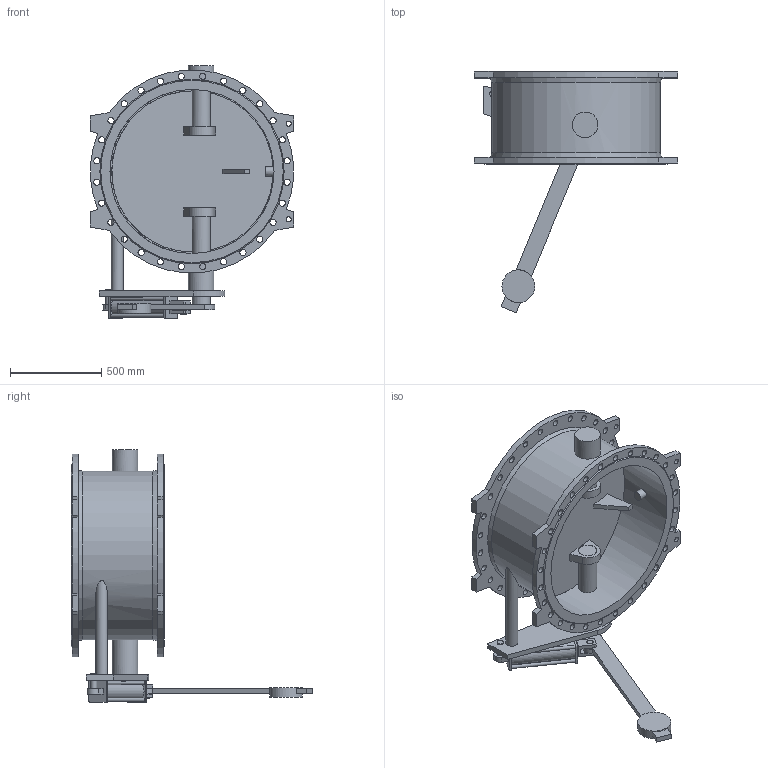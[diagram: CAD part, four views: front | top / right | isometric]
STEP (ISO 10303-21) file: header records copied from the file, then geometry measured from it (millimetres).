
FILE_DESCRIPTION(('STEP AP203'), '1');
FILE_NAME('Êëàïàí 015F.PV DN900 PN10 ñ ïðîòèâîâåñîì ñ äåìïôåðîì', '', ('UNSPECIFIED'), ('UNSPECIFIED'), 'ASCON STEP Converter 1.6', 'ASCON Math Kernel', '');
FILE_SCHEMA(('CONFIG_CONTROL_DESIGN'));
Length unit declared in the file: millimetre
Bounding box: 1115 x 1325 x 1385 mm (x, y, z)
Volume: 71063983.1 mm3; surface area: 7224390.7 mm2
Topology: 1 solids, 1 shells, 223 faces, 576 edges, 382 vertices
Faces by surface type: cylinder 114, plane 100, cone 4, extrusion 2, torus 2, bspline 1
Full cylindrical faces by diameter (mm): 18 x4, 20 x1, 28 x4, 30 x2, 34 x56, 35 x7, 50 x2, 65 x1, 100 x4, 102 x2, 140 x2, 180 x1, 900 x1, 926 x1
Entity records: 10442 total; most frequent: CARTESIAN_POINT 3110, DIRECTION 1122, ORIENTED_EDGE 946, EDGE_LOOP 494, EDGE_CURVE 473, AXIS2_PLACEMENT_3D 453, VERTEX_POINT 381, FACE_BOUND 306
